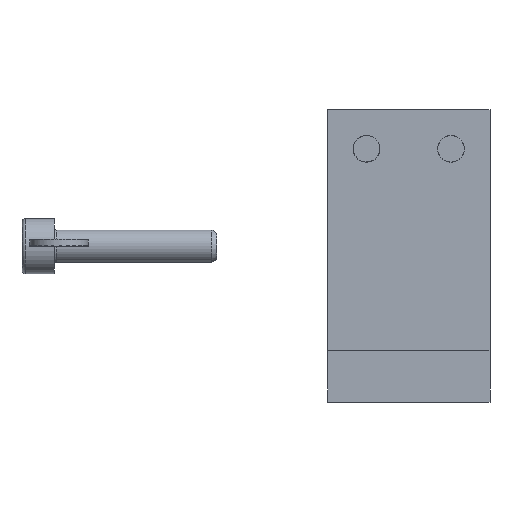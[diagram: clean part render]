
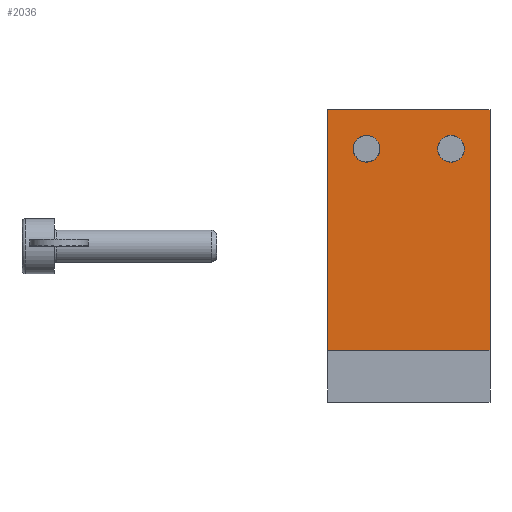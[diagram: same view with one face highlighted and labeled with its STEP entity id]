
A CAD part, front view. The second image highlights one B-rep face of the part: STEP entity #2036.
In plain terms, the highlighted planar face has unit normal (0, -1, 0).
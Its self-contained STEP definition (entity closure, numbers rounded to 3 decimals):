
#2036 = ADVANCED_FACE( '', ( #4125, #4126, #4127 ), #4128, .F. );
#4125 = FACE_OUTER_BOUND( '', #5005, .T. );
#4126 = FACE_BOUND( '', #5006, .T. );
#4127 = FACE_BOUND( '', #5007, .T. );
#4128 = PLANE( '', #5008 );
#4510 = EDGE_CURVE( '', #5659, #5659, #5660, .T. );
#4870 = EDGE_CURVE( '', #6154, #6154, #6155, .T. );
#5005 = EDGE_LOOP( '', ( #6355, #6356, #6357, #6358 ) );
#5006 = EDGE_LOOP( '', ( #6359 ) );
#5007 = EDGE_LOOP( '', ( #6360 ) );
#5008 = AXIS2_PLACEMENT_3D( '', #6361, #6362, #6363 );
#5659 = VERTEX_POINT( '', #7239 );
#5660 = CIRCLE( '', #7240, 2.067 );
#6154 = VERTEX_POINT( '', #7915 );
#6155 = CIRCLE( '', #7916, 2.067 );
#6355 = ORIENTED_EDGE( '', *, *, #8096, .T. );
#6356 = ORIENTED_EDGE( '', *, *, #8069, .T. );
#6357 = ORIENTED_EDGE( '', *, *, #8095, .F. );
#6358 = ORIENTED_EDGE( '', *, *, #8080, .F. );
#6359 = ORIENTED_EDGE( '', *, *, #4510, .F. );
#6360 = ORIENTED_EDGE( '', *, *, #4870, .F. );
#6361 = CARTESIAN_POINT( '', ( 47.825, 19., 21. ) );
#6362 = DIRECTION( '', ( 0., 1., 0. ) );
#6363 = DIRECTION( '', ( 0., 0., 1. ) );
#7239 = CARTESIAN_POINT( '', ( 8.567, 19., 15. ) );
#7240 = AXIS2_PLACEMENT_3D( '', #8641, #8642, #8643 );
#7915 = CARTESIAN_POINT( '', ( -4.433, 19., 15. ) );
#7916 = AXIS2_PLACEMENT_3D( '', #9077, #9078, #9079 );
#8069 = EDGE_CURVE( '', #9140, #9138, #9141, .T. );
#8080 = EDGE_CURVE( '', #9157, #9159, #9160, .T. );
#8095 = EDGE_CURVE( '', #9159, #9138, #9184, .T. );
#8096 = EDGE_CURVE( '', #9157, #9140, #9185, .T. );
#8641 = CARTESIAN_POINT( '', ( 6.5, 19., 15. ) );
#8642 = DIRECTION( '', ( 0., -1., 0. ) );
#8643 = DIRECTION( '', ( 1., 0., 0. ) );
#9077 = CARTESIAN_POINT( '', ( -6.5, 19., 15. ) );
#9078 = DIRECTION( '', ( 0., -1., 0. ) );
#9079 = DIRECTION( '', ( 1., 0., 0. ) );
#9138 = VERTEX_POINT( '', #9232 );
#9140 = VERTEX_POINT( '', #9235 );
#9141 = LINE( '', #9236, #9237 );
#9157 = VERTEX_POINT( '', #9259 );
#9159 = VERTEX_POINT( '', #9262 );
#9160 = LINE( '', #9263, #9264 );
#9184 = LINE( '', #9298, #9299 );
#9185 = LINE( '', #9300, #9301 );
#9232 = CARTESIAN_POINT( '', ( -12.5, 19., -16. ) );
#9235 = CARTESIAN_POINT( '', ( -12.5, 19., 21. ) );
#9236 = CARTESIAN_POINT( '', ( -12.5, 19., 21. ) );
#9237 = VECTOR( '', #9332, 1000. );
#9259 = CARTESIAN_POINT( '', ( 12.5, 19., 21. ) );
#9262 = CARTESIAN_POINT( '', ( 12.5, 19., -16. ) );
#9263 = CARTESIAN_POINT( '', ( 12.5, 19., 21. ) );
#9264 = VECTOR( '', #9349, 1000. );
#9298 = CARTESIAN_POINT( '', ( 47.825, 19., -16. ) );
#9299 = VECTOR( '', #9372, 1000. );
#9300 = CARTESIAN_POINT( '', ( 47.825, 19., 21. ) );
#9301 = VECTOR( '', #9373, 1000. );
#9332 = DIRECTION( '', ( 0., 0., -1. ) );
#9349 = DIRECTION( '', ( 0., 0., -1. ) );
#9372 = DIRECTION( '', ( -1., 0., 0. ) );
#9373 = DIRECTION( '', ( -1., 0., 0. ) );
